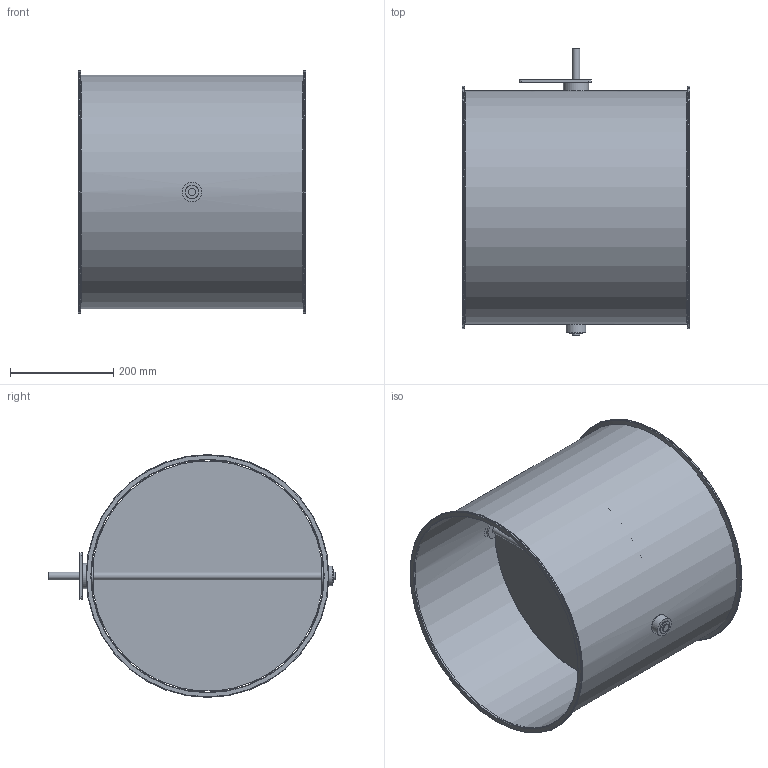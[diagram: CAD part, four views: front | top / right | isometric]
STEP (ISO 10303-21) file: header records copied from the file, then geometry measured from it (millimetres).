
FILE_DESCRIPTION(/* description */ (''),/* implementation_level */ '2;1');
FILE_NAME(/* name */ 'EA109-80B__450_L440_Belimo_Typ_NM.stp',/* time_stamp */ '2017-12-07T11:10:51+01:00',/* author */ (''),/* organization */ (''),/* preprocessor_version */ 'ST-DEVELOPER v11',/* originating_system */ 'SIEMENS UGS NX 6.0',/* authorisation */ '');
FILE_SCHEMA (('CONFIG_CONTROL_DESIGN'));
Length unit declared in the file: millimetre
Products named in the file (1): gars5544kxd2
Bounding box: 440 x 554 x 470 mm (x, y, z)
Volume: 1108543.4 mm3; surface area: 1681428.6 mm2
Topology: 8 solids, 8 shells, 62 faces, 132 edges, 88 vertices
Faces by surface type: cylinder 30, plane 24, torus 6, cone 2
Full cylindrical faces by diameter (mm): 6.1 x6, 15 x3, 25 x3, 25.85 x2, 26 x2, 38 x3, 49 x1, 450 x1, 452 x1, 470 x2
Entity records: 1636 total; most frequent: CARTESIAN_POINT 299, DIRECTION 274, ORIENTED_EDGE 180, AXIS2_PLACEMENT_3D 125, EDGE_LOOP 124, FACE_BOUND 110, EDGE_CURVE 90, VERTEX_POINT 78
